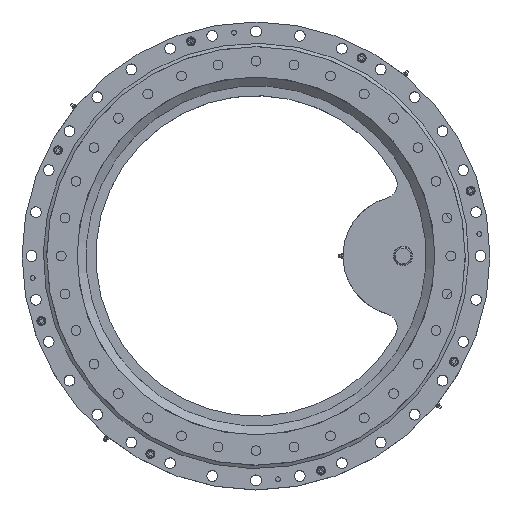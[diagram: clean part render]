
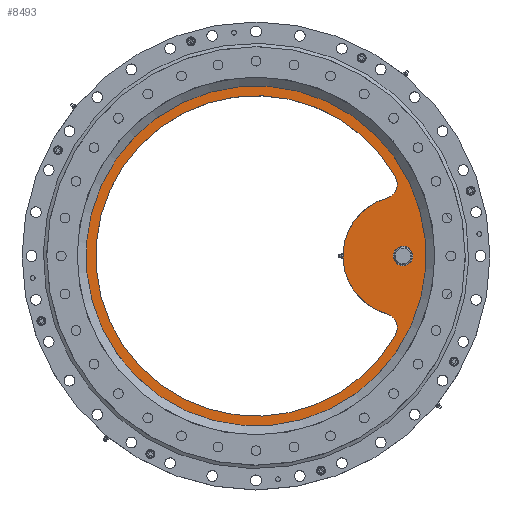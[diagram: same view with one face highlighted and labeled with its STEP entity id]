
A CAD part, top view. The second image highlights one B-rep face of the part: STEP entity #8493.
In plain terms, the highlighted planar face has unit normal (0, 0, 1).
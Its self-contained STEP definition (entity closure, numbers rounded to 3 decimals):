
#52=PLANE('',#9126);
#242=FACE_BOUND('',#976,.T.);
#243=FACE_BOUND('',#977,.T.);
#575=FACE_OUTER_BOUND('',#975,.T.);
#975=EDGE_LOOP('',(#6022));
#976=EDGE_LOOP('',(#6023));
#977=EDGE_LOOP('',(#6024,#6025,#6026,#6027));
#2983=CIRCLE('',#9118,122.5);
#2985=CIRCLE('',#9121,327.);
#2987=CIRCLE('',#9124,30.);
#2989=CIRCLE('',#9127,349.);
#2990=CIRCLE('',#9128,18.);
#2991=CIRCLE('',#9129,30.);
#3652=VERTEX_POINT('',#13092);
#3653=VERTEX_POINT('',#13094);
#3658=VERTEX_POINT('',#13277);
#3659=VERTEX_POINT('',#13278);
#3662=VERTEX_POINT('',#13289);
#3663=VERTEX_POINT('',#13291);
#4647=EDGE_CURVE('',#3652,#3653,#2983,.T.);
#4653=EDGE_CURVE('',#3658,#3659,#2985,.T.);
#4657=EDGE_CURVE('',#3652,#3659,#2987,.T.);
#4659=EDGE_CURVE('',#3662,#3662,#2989,.T.);
#4660=EDGE_CURVE('',#3663,#3663,#2990,.T.);
#4661=EDGE_CURVE('',#3658,#3653,#2991,.T.);
#6022=ORIENTED_EDGE('',*,*,#4659,.T.);
#6023=ORIENTED_EDGE('',*,*,#4660,.T.);
#6024=ORIENTED_EDGE('',*,*,#4653,.F.);
#6025=ORIENTED_EDGE('',*,*,#4661,.T.);
#6026=ORIENTED_EDGE('',*,*,#4647,.F.);
#6027=ORIENTED_EDGE('',*,*,#4657,.T.);
#8493=ADVANCED_FACE('',(#575,#242,#243),#52,.T.);
#9118=AXIS2_PLACEMENT_3D('',#13095,#10358,#10359);
#9121=AXIS2_PLACEMENT_3D('',#13279,#10366,#10367);
#9124=AXIS2_PLACEMENT_3D('',#13286,#10374,#10375);
#9126=AXIS2_PLACEMENT_3D('',#13288,#10378,#10379);
#9127=AXIS2_PLACEMENT_3D('',#13290,#10380,#10381);
#9128=AXIS2_PLACEMENT_3D('',#13292,#10382,#10383);
#9129=AXIS2_PLACEMENT_3D('',#13293,#10384,#10385);
#10358=DIRECTION('center_axis',(0.,0.,-1.));
#10359=DIRECTION('ref_axis',(1.,0.,0.));
#10366=DIRECTION('center_axis',(0.,0.,1.));
#10367=DIRECTION('ref_axis',(1.,0.,0.));
#10374=DIRECTION('center_axis',(0.,0.,-1.));
#10375=DIRECTION('ref_axis',(1.,0.,0.));
#10378=DIRECTION('center_axis',(0.,0.,1.));
#10379=DIRECTION('ref_axis',(1.,0.,0.));
#10380=DIRECTION('center_axis',(0.,0.,1.));
#10381=DIRECTION('ref_axis',(1.,0.,0.));
#10382=DIRECTION('center_axis',(0.,0.,-1.));
#10383=DIRECTION('ref_axis',(-1.,0.,0.));
#10384=DIRECTION('center_axis',(0.,0.,-1.));
#10385=DIRECTION('ref_axis',(1.,0.,0.));
#13092=CARTESIAN_POINT('',(200.064,-80.323,647.5));
#13094=CARTESIAN_POINT('',(200.064,155.319,647.5));
#13095=CARTESIAN_POINT('Origin',(233.597,37.498,647.5));
#13277=CARTESIAN_POINT('',(217.938,198.989,647.5));
#13278=CARTESIAN_POINT('',(217.938,-123.993,647.5));
#13279=CARTESIAN_POINT('Origin',(-66.403,37.498,647.5));
#13286=CARTESIAN_POINT('Origin',(191.852,-109.177,647.5));
#13288=CARTESIAN_POINT('Origin',(-66.403,37.498,647.5));
#13289=CARTESIAN_POINT('',(-415.403,37.498,647.5));
#13290=CARTESIAN_POINT('Origin',(-66.403,37.498,647.5));
#13291=CARTESIAN_POINT('',(251.597,37.498,647.5));
#13292=CARTESIAN_POINT('Origin',(233.597,37.498,647.5));
#13293=CARTESIAN_POINT('Origin',(191.852,184.173,647.5));
